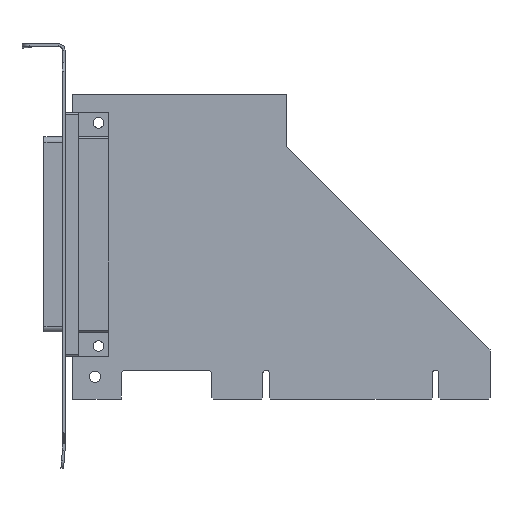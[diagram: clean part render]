
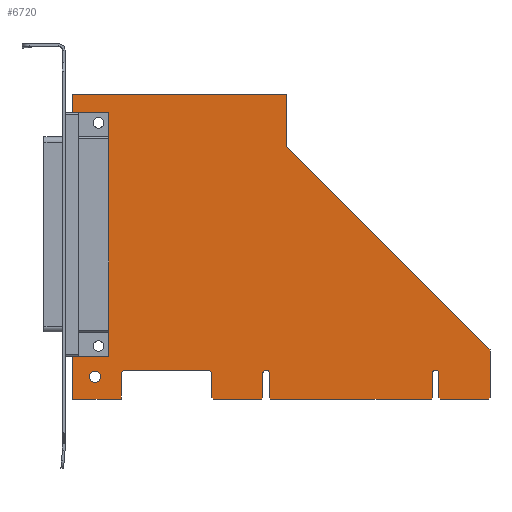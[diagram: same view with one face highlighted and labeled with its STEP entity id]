
A CAD part, top view. The second image highlights one B-rep face of the part: STEP entity #6720.
In plain terms, the highlighted planar face has unit normal (0, 0, 1).
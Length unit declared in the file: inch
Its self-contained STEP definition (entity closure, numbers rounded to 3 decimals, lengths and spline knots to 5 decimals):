
#1387=DIRECTION('',(0.,-1.,0.));
#1388=VECTOR('',#1387,2.68976);
#1389=CARTESIAN_POINT('',(0.15339,2.99888,0.062));
#1390=LINE('',#1389,#1388);
#1391=DIRECTION('',(-1.,0.,0.));
#1392=VECTOR('',#1391,0.40339);
#1393=CARTESIAN_POINT('',(0.15339,2.99888,0.062));
#1394=LINE('',#1393,#1392);
#1395=DIRECTION('',(0.,-1.,0.));
#1396=VECTOR('',#1395,0.22312);
#1397=CARTESIAN_POINT('',(-0.25,3.222,0.062));
#1398=LINE('',#1397,#1396);
#1399=DIRECTION('',(-1.,0.,0.));
#1400=VECTOR('',#1399,2.401);
#1401=CARTESIAN_POINT('',(2.151,3.222,0.062));
#1402=LINE('',#1401,#1400);
#1403=DIRECTION('',(0.,1.,0.));
#1404=VECTOR('',#1403,0.587);
#1405=CARTESIAN_POINT('',(2.151,2.635,0.062));
#1406=LINE('',#1405,#1404);
#1407=DIRECTION('',(-0.707,0.707,0.));
#1408=VECTOR('',#1407,3.21734);
#1409=CARTESIAN_POINT('',(4.426,0.36,0.062));
#1410=LINE('',#1409,#1408);
#1411=DIRECTION('',(0.,1.,0.));
#1412=VECTOR('',#1411,0.535);
#1413=CARTESIAN_POINT('',(4.426,-0.175,0.062));
#1414=LINE('',#1413,#1412);
#1415=DIRECTION('',(0.707,0.707,0.));
#1416=VECTOR('',#1415,0.02121);
#1417=CARTESIAN_POINT('',(4.411,-0.19,0.062));
#1418=LINE('',#1417,#1416);
#1419=DIRECTION('',(1.,0.,0.));
#1420=VECTOR('',#1419,0.5415);
#1421=CARTESIAN_POINT('',(3.8695,-0.19,0.062));
#1422=LINE('',#1421,#1420);
#1423=DIRECTION('',(0.707,-0.707,0.));
#1424=VECTOR('',#1423,0.02121);
#1425=CARTESIAN_POINT('',(3.8545,-0.175,0.062));
#1426=LINE('',#1425,#1424);
#1427=DIRECTION('',(0.,-1.,0.));
#1428=VECTOR('',#1427,0.2735);
#1429=CARTESIAN_POINT('',(3.8545,0.0985,0.062));
#1430=LINE('',#1429,#1428);
#1431=CARTESIAN_POINT('',(3.818,0.0985,0.062));
#1432=DIRECTION('',(0.,0.,-1.));
#1433=DIRECTION('',(-1.,0.,0.));
#1434=AXIS2_PLACEMENT_3D('',#1431,#1432,#1433);
#1436=DIRECTION('',(0.,1.,0.));
#1437=VECTOR('',#1436,0.2735);
#1438=CARTESIAN_POINT('',(3.7815,-0.175,0.062));
#1439=LINE('',#1438,#1437);
#1440=DIRECTION('',(0.707,0.707,0.));
#1441=VECTOR('',#1440,0.02121);
#1442=CARTESIAN_POINT('',(3.7665,-0.19,0.062));
#1443=LINE('',#1442,#1441);
#1444=DIRECTION('',(1.,0.,0.));
#1445=VECTOR('',#1444,1.797);
#1446=CARTESIAN_POINT('',(1.9695,-0.19,0.062));
#1447=LINE('',#1446,#1445);
#1448=DIRECTION('',(0.707,-0.707,0.));
#1449=VECTOR('',#1448,0.02121);
#1450=CARTESIAN_POINT('',(1.9545,-0.175,0.062));
#1451=LINE('',#1450,#1449);
#1452=DIRECTION('',(0.,-1.,0.));
#1453=VECTOR('',#1452,0.2735);
#1454=CARTESIAN_POINT('',(1.9545,0.0985,0.062));
#1455=LINE('',#1454,#1453);
#1456=CARTESIAN_POINT('',(1.918,0.0985,0.062));
#1457=DIRECTION('',(0.,0.,-1.));
#1458=DIRECTION('',(-1.,0.,0.));
#1459=AXIS2_PLACEMENT_3D('',#1456,#1457,#1458);
#1461=DIRECTION('',(0.,1.,0.));
#1462=VECTOR('',#1461,0.2735);
#1463=CARTESIAN_POINT('',(1.8815,-0.175,0.062));
#1464=LINE('',#1463,#1462);
#1465=DIRECTION('',(0.707,0.707,0.));
#1466=VECTOR('',#1465,0.02121);
#1467=CARTESIAN_POINT('',(1.8665,-0.19,0.062));
#1468=LINE('',#1467,#1466);
#1469=DIRECTION('',(1.,0.,0.));
#1470=VECTOR('',#1469,0.5415);
#1471=CARTESIAN_POINT('',(1.325,-0.19,0.062));
#1472=LINE('',#1471,#1470);
#1473=DIRECTION('',(0.707,-0.707,0.));
#1474=VECTOR('',#1473,0.02121);
#1475=CARTESIAN_POINT('',(1.31,-0.175,0.062));
#1476=LINE('',#1475,#1474);
#1477=DIRECTION('',(0.,-1.,0.));
#1478=VECTOR('',#1477,0.263);
#1479=CARTESIAN_POINT('',(1.31,0.088,0.062));
#1480=LINE('',#1479,#1478);
#1481=CARTESIAN_POINT('',(1.263,0.088,0.062));
#1482=DIRECTION('',(0.,0.,-1.));
#1483=DIRECTION('',(0.,1.,0.));
#1484=AXIS2_PLACEMENT_3D('',#1481,#1482,#1483);
#1486=DIRECTION('',(1.,0.,0.));
#1487=VECTOR('',#1486,0.92);
#1488=CARTESIAN_POINT('',(0.343,0.135,0.062));
#1489=LINE('',#1488,#1487);
#1490=CARTESIAN_POINT('',(0.343,0.088,0.062));
#1491=DIRECTION('',(0.,0.,-1.));
#1492=DIRECTION('',(-1.,0.,0.));
#1493=AXIS2_PLACEMENT_3D('',#1490,#1491,#1492);
#1495=DIRECTION('',(0.,1.,0.));
#1496=VECTOR('',#1495,0.278);
#1497=CARTESIAN_POINT('',(0.296,-0.19,0.062));
#1498=LINE('',#1497,#1496);
#1499=DIRECTION('',(1.,0.,0.));
#1500=VECTOR('',#1499,0.546);
#1501=CARTESIAN_POINT('',(-0.25,-0.19,0.062));
#1502=LINE('',#1501,#1500);
#1503=DIRECTION('',(0.,-1.,0.));
#1504=VECTOR('',#1503,0.49912);
#1505=CARTESIAN_POINT('',(-0.25,0.30912,0.062));
#1506=LINE('',#1505,#1504);
#1507=DIRECTION('',(-1.,0.,0.));
#1508=VECTOR('',#1507,0.40339);
#1509=CARTESIAN_POINT('',(0.15339,0.30912,0.062));
#1510=LINE('',#1509,#1508);
#1511=CARTESIAN_POINT('',(0.,0.06,0.062));
#1512=DIRECTION('',(0.,0.,1.));
#1513=DIRECTION('',(1.,0.,0.));
#1514=AXIS2_PLACEMENT_3D('',#1511,#1512,#1513);
#1516=CARTESIAN_POINT('',(0.,0.06,0.062));
#1517=DIRECTION('',(0.,0.,1.));
#1518=DIRECTION('',(-1.,0.,0.));
#1519=AXIS2_PLACEMENT_3D('',#1516,#1517,#1518);
#3797=CARTESIAN_POINT('',(3.8545,-0.175,0.062));
#3798=CARTESIAN_POINT('',(3.8695,-0.19,0.062));
#3799=VERTEX_POINT('',#3797);
#3800=VERTEX_POINT('',#3798);
#3801=CARTESIAN_POINT('',(4.411,-0.19,0.062));
#3802=VERTEX_POINT('',#3801);
#3803=CARTESIAN_POINT('',(4.426,-0.175,0.062));
#3804=VERTEX_POINT('',#3803);
#3805=CARTESIAN_POINT('',(-0.25,-0.19,0.062));
#3806=CARTESIAN_POINT('',(0.296,-0.19,0.062));
#3807=VERTEX_POINT('',#3805);
#3808=VERTEX_POINT('',#3806);
#3809=CARTESIAN_POINT('',(0.296,0.088,0.062));
#3810=VERTEX_POINT('',#3809);
#3811=CARTESIAN_POINT('',(0.343,0.135,0.062));
#3812=VERTEX_POINT('',#3811);
#3813=CARTESIAN_POINT('',(1.263,0.135,0.062));
#3814=VERTEX_POINT('',#3813);
#3815=CARTESIAN_POINT('',(1.31,0.088,0.062));
#3816=VERTEX_POINT('',#3815);
#3817=CARTESIAN_POINT('',(1.31,-0.175,0.062));
#3818=VERTEX_POINT('',#3817);
#3819=CARTESIAN_POINT('',(1.325,-0.19,0.062));
#3820=VERTEX_POINT('',#3819);
#3821=CARTESIAN_POINT('',(1.8665,-0.19,0.062));
#3822=VERTEX_POINT('',#3821);
#3823=CARTESIAN_POINT('',(1.8815,-0.175,0.062));
#3824=VERTEX_POINT('',#3823);
#3825=CARTESIAN_POINT('',(1.8815,0.0985,0.062));
#3826=VERTEX_POINT('',#3825);
#3827=CARTESIAN_POINT('',(1.9545,0.0985,0.062));
#3828=VERTEX_POINT('',#3827);
#3829=CARTESIAN_POINT('',(1.9545,-0.175,0.062));
#3830=VERTEX_POINT('',#3829);
#3831=CARTESIAN_POINT('',(1.9695,-0.19,0.062));
#3832=VERTEX_POINT('',#3831);
#3833=CARTESIAN_POINT('',(3.7665,-0.19,0.062));
#3834=VERTEX_POINT('',#3833);
#3835=CARTESIAN_POINT('',(3.7815,-0.175,0.062));
#3836=VERTEX_POINT('',#3835);
#3837=CARTESIAN_POINT('',(3.7815,0.0985,0.062));
#3838=VERTEX_POINT('',#3837);
#3839=CARTESIAN_POINT('',(3.8545,0.0985,0.062));
#3840=VERTEX_POINT('',#3839);
#3841=CARTESIAN_POINT('',(-0.25,3.222,0.062));
#3842=VERTEX_POINT('',#3841);
#3847=CARTESIAN_POINT('',(4.426,0.36,0.062));
#3848=CARTESIAN_POINT('',(2.151,2.635,0.062));
#3849=VERTEX_POINT('',#3847);
#3850=VERTEX_POINT('',#3848);
#3939=CARTESIAN_POINT('',(0.0625,0.06,0.062));
#3940=CARTESIAN_POINT('',(-0.0625,0.06,0.062));
#3941=VERTEX_POINT('',#3939);
#3942=VERTEX_POINT('',#3940);
#3945=CARTESIAN_POINT('',(2.151,3.222,0.062));
#3946=VERTEX_POINT('',#3945);
#4455=CARTESIAN_POINT('',(0.15339,2.99888,0.062));
#4456=CARTESIAN_POINT('',(0.15339,0.30912,0.062));
#4457=VERTEX_POINT('',#4455);
#4458=VERTEX_POINT('',#4456);
#4459=CARTESIAN_POINT('',(-0.25,0.30912,0.062));
#4460=VERTEX_POINT('',#4459);
#4461=CARTESIAN_POINT('',(-0.25,2.99888,0.062));
#4462=VERTEX_POINT('',#4461);
#6674=CARTESIAN_POINT('',(0.,0.,0.062));
#6675=DIRECTION('',(0.,0.,1.));
#6676=DIRECTION('',(1.,0.,0.));
#6677=AXIS2_PLACEMENT_3D('',#6674,#6675,#6676);
#6678=PLANE('',#6677);
#6679=ORIENTED_EDGE('',*,*,#6650,.F.);
#6681=ORIENTED_EDGE('',*,*,#6680,.T.);
#6682=ORIENTED_EDGE('',*,*,#5475,.F.);
#6684=ORIENTED_EDGE('',*,*,#6683,.F.);
#6686=ORIENTED_EDGE('',*,*,#6685,.F.);
#6687=ORIENTED_EDGE('',*,*,#5147,.F.);
#6688=ORIENTED_EDGE('',*,*,#5163,.F.);
#6689=ORIENTED_EDGE('',*,*,#5176,.F.);
#6690=ORIENTED_EDGE('',*,*,#5190,.F.);
#6691=ORIENTED_EDGE('',*,*,#5204,.F.);
#6692=ORIENTED_EDGE('',*,*,#5218,.F.);
#6693=ORIENTED_EDGE('',*,*,#5232,.F.);
#6694=ORIENTED_EDGE('',*,*,#5246,.F.);
#6695=ORIENTED_EDGE('',*,*,#5260,.F.);
#6696=ORIENTED_EDGE('',*,*,#5274,.F.);
#6697=ORIENTED_EDGE('',*,*,#5288,.F.);
#6698=ORIENTED_EDGE('',*,*,#5302,.F.);
#6699=ORIENTED_EDGE('',*,*,#5316,.F.);
#6700=ORIENTED_EDGE('',*,*,#5330,.F.);
#6701=ORIENTED_EDGE('',*,*,#5344,.F.);
#6702=ORIENTED_EDGE('',*,*,#5358,.F.);
#6703=ORIENTED_EDGE('',*,*,#5372,.F.);
#6704=ORIENTED_EDGE('',*,*,#5386,.F.);
#6705=ORIENTED_EDGE('',*,*,#5400,.F.);
#6706=ORIENTED_EDGE('',*,*,#5414,.F.);
#6707=ORIENTED_EDGE('',*,*,#5428,.F.);
#6708=ORIENTED_EDGE('',*,*,#5442,.F.);
#6709=ORIENTED_EDGE('',*,*,#5456,.F.);
#6710=ORIENTED_EDGE('',*,*,#5469,.F.);
#6711=ORIENTED_EDGE('',*,*,#5506,.F.);
#6712=EDGE_LOOP('',(#6679,#6681,#6682,#6684,#6686,#6687,#6688,#6689,#6690,#6691,
#6692,#6693,#6694,#6695,#6696,#6697,#6698,#6699,#6700,#6701,#6702,#6703,#6704,
#6705,#6706,#6707,#6708,#6709,#6710,#6711));
#6713=FACE_OUTER_BOUND('',#6712,.F.);
#6715=ORIENTED_EDGE('',*,*,#6714,.T.);
#6717=ORIENTED_EDGE('',*,*,#6716,.T.);
#6718=EDGE_LOOP('',(#6715,#6717));
#6719=FACE_BOUND('',#6718,.F.);
#6720=ADVANCED_FACE('',(#6713,#6719),#6678,.T.);
#1435=CIRCLE('',#1434,0.0365);
#1460=CIRCLE('',#1459,0.0365);
#1485=CIRCLE('',#1484,0.047);
#1494=CIRCLE('',#1493,0.047);
#1515=CIRCLE('',#1514,0.0625);
#1520=CIRCLE('',#1519,0.0625);
#5147=EDGE_CURVE('',#3849,#3850,#1410,.T.);
#5163=EDGE_CURVE('',#3804,#3849,#1414,.T.);
#5176=EDGE_CURVE('',#3802,#3804,#1418,.T.);
#5190=EDGE_CURVE('',#3800,#3802,#1422,.T.);
#5204=EDGE_CURVE('',#3799,#3800,#1426,.T.);
#5218=EDGE_CURVE('',#3840,#3799,#1430,.T.);
#5232=EDGE_CURVE('',#3838,#3840,#1435,.T.);
#5246=EDGE_CURVE('',#3836,#3838,#1439,.T.);
#5260=EDGE_CURVE('',#3834,#3836,#1443,.T.);
#5274=EDGE_CURVE('',#3832,#3834,#1447,.T.);
#5288=EDGE_CURVE('',#3830,#3832,#1451,.T.);
#5302=EDGE_CURVE('',#3828,#3830,#1455,.T.);
#5316=EDGE_CURVE('',#3826,#3828,#1460,.T.);
#5330=EDGE_CURVE('',#3824,#3826,#1464,.T.);
#5344=EDGE_CURVE('',#3822,#3824,#1468,.T.);
#5358=EDGE_CURVE('',#3820,#3822,#1472,.T.);
#5372=EDGE_CURVE('',#3818,#3820,#1476,.T.);
#5386=EDGE_CURVE('',#3816,#3818,#1480,.T.);
#5400=EDGE_CURVE('',#3814,#3816,#1485,.T.);
#5414=EDGE_CURVE('',#3812,#3814,#1489,.T.);
#5428=EDGE_CURVE('',#3810,#3812,#1494,.T.);
#5442=EDGE_CURVE('',#3808,#3810,#1498,.T.);
#5456=EDGE_CURVE('',#3807,#3808,#1502,.T.);
#5469=EDGE_CURVE('',#4460,#3807,#1506,.T.);
#5475=EDGE_CURVE('',#3842,#4462,#1398,.T.);
#5506=EDGE_CURVE('',#4458,#4460,#1510,.T.);
#6650=EDGE_CURVE('',#4457,#4458,#1390,.T.);
#6680=EDGE_CURVE('',#4457,#4462,#1394,.T.);
#6683=EDGE_CURVE('',#3946,#3842,#1402,.T.);
#6685=EDGE_CURVE('',#3850,#3946,#1406,.T.);
#6714=EDGE_CURVE('',#3941,#3942,#1515,.T.);
#6716=EDGE_CURVE('',#3942,#3941,#1520,.T.);
